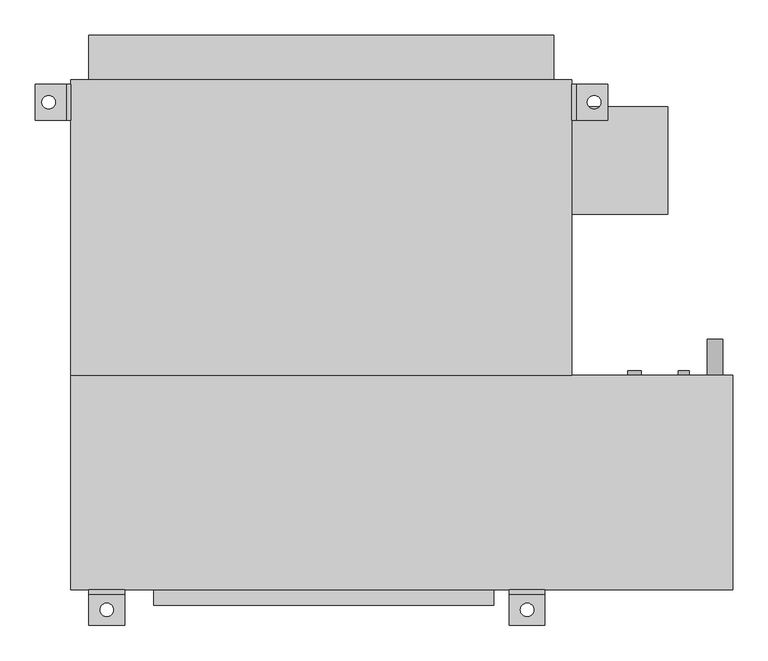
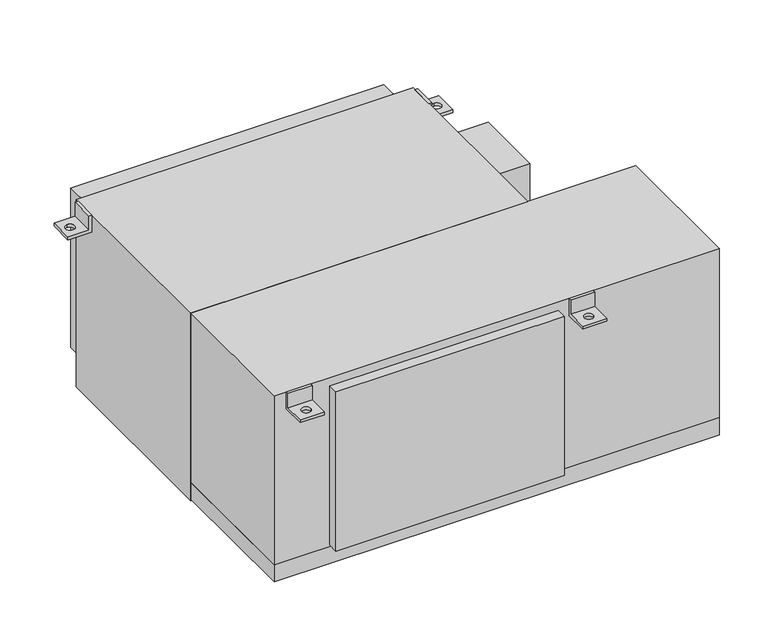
"""IFC4 building model written with IfcOpenShell, lengths in millimetres: proxy geometry, Concealed_High_Capacity_Horizontal_Fan_Coil_Unit_With_Plenum_-_42DCA_-_CARRIER_-_4-Pipe_ValveEnclosure_RH_2022 : Size 08 - 277v/60Hz/1Ph - 6/2 Coil."""

import ifcopenshell
import ifcopenshell.guid

model = None  # the IFC model being written
_history = None  # IfcOwnerHistory: only IFC2X3 demands one
_inside = {}  # id of a spatial element -> (the spatial element, [elements in it])
_under = {}  # id of a project, library or spatial element -> (it, [spatial elements below it])
_declared = {}  # id of a project -> (the project, [libraries it declares])
_typed = {}  # id of a type object -> (the type object, [elements of that type])
_made_of = {}  # id of a material, layer set ... -> (it, [elements and type objects made of it])


def new_model(schema):
    """Start an empty IFC model of exactly this schema.

    Asked for "IFC4X3", IfcOpenShell would pick the latest addendum, in which some entities
    have other attributes; the version numbers below select the first issue.
    IFC2X3 requires an IfcOwnerHistory on every rooted entity: one is made here for all.
    """
    global model, _history
    if schema == "IFC4X3":
        model = ifcopenshell.file(schema_version=(4, 3, 0, 0))
    else:
        model = ifcopenshell.file(schema=schema)
    _inside.clear()
    _under.clear()
    _declared.clear()
    _typed.clear()
    _made_of.clear()
    _history = None
    if model.schema == "IFC2X3":
        org = make("IfcOrganization", Name="unknown")
        user = make(
            "IfcPersonAndOrganization",
            ThePerson=make("IfcPerson", FamilyName="unknown"),
            TheOrganization=org,
        )
        app = make(
            "IfcApplication",
            ApplicationDeveloper=org,
            Version="unknown",
            ApplicationFullName="unknown",
            ApplicationIdentifier="unknown",
        )
        _history = make(
            "IfcOwnerHistory",
            OwningUser=user,
            OwningApplication=app,
            ChangeAction="ADDED",
            CreationDate=0,
        )
    return model


def make(cls, **values):
    """One entity of the class cls with the attributes given. An attribute that is None is left unset."""
    return model.create_entity(
        cls, **{name: value for name, value in values.items() if value is not None}
    )


def rooted(cls, **values):
    """An entity with a GlobalId (a new one), such as an element, a storey or a relation."""
    return make(cls, GlobalId=ifcopenshell.guid.new(), OwnerHistory=_history, **values)


def si_unit(unit_type, name, prefix=None):
    """IfcSIUnit, for example si_unit("LENGTHUNIT", "METRE", prefix="MILLI")."""
    return make("IfcSIUnit", UnitType=unit_type, Prefix=prefix, Name=name)


def assignment(units):
    """IfcUnitAssignment: the units of a project."""
    return None if units is None else make("IfcUnitAssignment", Units=units)


def point(xyz):
    """IfcCartesianPoint."""
    return None if xyz is None else make("IfcCartesianPoint", Coordinates=xyz)


def direction(xyz):
    """IfcDirection."""
    return None if xyz is None else make("IfcDirection", DirectionRatios=xyz)


def frame(location, z_axis=None, x_axis=None):
    """IfcAxis2Placement3D, a coordinate frame: its origin and axes. An axis left out is left unset."""
    return make(
        "IfcAxis2Placement3D",
        Location=point(location),
        Axis=direction(z_axis),
        RefDirection=direction(x_axis),
    )


def frame_2d(location, x_axis=None):
    """IfcAxis2Placement2D, a coordinate frame in the plane: its origin and x axis."""
    return make(
        "IfcAxis2Placement2D", Location=point(location), RefDirection=direction(x_axis)
    )


def origin():
    """The frame at (0, 0, 0) with its axes left unset."""
    return frame((0.0, 0.0, 0.0))


def place(relative_to, where):
    """IfcLocalPlacement: puts the frame where relative to a parent placement (None: the world)."""
    return make(
        "IfcLocalPlacement", PlacementRelTo=relative_to, RelativePlacement=where
    )


def context(
    kind, dimensions, precision=None, world=None, true_north=None, identifier=None
):
    """IfcGeometricRepresentationContext, for example the 3D "Model" context."""
    return make(
        "IfcGeometricRepresentationContext",
        ContextIdentifier=identifier,
        ContextType=kind,
        CoordinateSpaceDimension=dimensions,
        Precision=precision,
        WorldCoordinateSystem=world,
        TrueNorth=true_north,
    )


def project(units=None, contexts=None):
    """IfcProject with its units and contexts."""
    return rooted(
        "IfcProject",
        Name="project",
        RepresentationContexts=contexts,
        UnitsInContext=assignment(units),
    )


def spatial(cls, under=None, at=None, **own):
    """A site, building, storey or space (cls), placed at a placement, below another one or the project."""
    s = rooted(cls, ObjectPlacement=at, **own)
    if under is not None:
        _under.setdefault(under.id(), (under, []))[1].append(s)
    return s


def polyline(points):
    """IfcPolyline through the points."""
    return make("IfcPolyline", Points=[point(p) for p in points])


def circle_curve(where, radius):
    """IfcCircle in the frame where."""
    return make("IfcCircle", Position=where, Radius=radius)


def trimmed(basis, trim1, trim2, sense, master):
    """IfcTrimmedCurve: the piece of a basis curve between two trims."""
    return make(
        "IfcTrimmedCurve",
        BasisCurve=basis,
        Trim1=trim1,
        Trim2=trim2,
        SenseAgreement=sense,
        MasterRepresentation=master,
    )


def segment(curve, same_sense, transition):
    """IfcCompositeCurveSegment."""
    return make(
        "IfcCompositeCurveSegment",
        Transition=transition,
        SameSense=same_sense,
        ParentCurve=curve,
    )


def composite_curve(segments, self_intersect=None):
    """IfcCompositeCurve: segments joined end to end."""
    return make("IfcCompositeCurve", Segments=segments, SelfIntersect=self_intersect)


def outline(outer, holes=None, kind="AREA"):
    """IfcArbitraryClosedProfileDef: a profile drawn as a closed curve; with holes, ...WithVoids."""
    if holes is None:
        return make("IfcArbitraryClosedProfileDef", ProfileType=kind, OuterCurve=outer)
    return make(
        "IfcArbitraryProfileDefWithVoids",
        ProfileType=kind,
        OuterCurve=outer,
        InnerCurves=holes,
    )


def extrude(swept, where, along, depth):
    """IfcExtrudedAreaSolid: the profile swept, set in the frame where, extruded along a direction by depth."""
    return make(
        "IfcExtrudedAreaSolid",
        SweptArea=swept,
        Position=where,
        ExtrudedDirection=direction(along),
        Depth=depth,
    )


def shape(context_of_items, identifier, shape_type, items):
    """IfcShapeRepresentation: the items that make up one representation, for example the "Body"."""
    return make(
        "IfcShapeRepresentation",
        ContextOfItems=context_of_items,
        RepresentationIdentifier=identifier,
        RepresentationType=shape_type,
        Items=items,
    )


def source(mapping_origin, context_of_items, identifier, shape_type, items):
    """IfcRepresentationMap: a shape defined once, which mapped items show again and again."""
    return make(
        "IfcRepresentationMap",
        MappingOrigin=mapping_origin,
        MappedRepresentation=shape(context_of_items, identifier, shape_type, items),
    )


def transform(
    local_origin,
    x_axis=None,
    y_axis=None,
    z_axis=None,
    scale=None,
    scale2=None,
    scale3=None,
    uniform=True,
):
    """IfcCartesianTransformationOperator3D, or its non-uniform kind. x_axis, y_axis, z_axis: its Axis1, 2, 3."""
    if uniform:
        return make(
            "IfcCartesianTransformationOperator3D",
            Axis1=direction(x_axis),
            Axis2=direction(y_axis),
            LocalOrigin=point(local_origin),
            Scale=scale,
            Axis3=direction(z_axis),
        )
    return make(
        "IfcCartesianTransformationOperator3DnonUniform",
        Axis1=direction(x_axis),
        Axis2=direction(y_axis),
        LocalOrigin=point(local_origin),
        Scale=scale,
        Axis3=direction(z_axis),
        Scale2=scale2,
        Scale3=scale3,
    )


def mapped(mapping_source, mapping_target):
    """IfcMappedItem: shows the shape of a source again, moved by a transform."""
    return make(
        "IfcMappedItem", MappingSource=mapping_source, MappingTarget=mapping_target
    )


def made_of(thing, what):
    """Note that an element or type object is made of a material, layer set ...; save() writes the relation."""
    if what is not None:
        _made_of.setdefault(what.id(), (what, []))[1].append(thing)
    return thing


def element(
    cls,
    number,
    at=None,
    inside=None,
    cuts=None,
    type_object=None,
    material=None,
    context=None,
    identifier="Body",
    shape_type=None,
    held_by="IfcProductDefinitionShape",
    body=None,
    shapes=None,
    **own,
):
    """One element of the class cls, such as IfcWall. Its Tag is "e" and its number.

    at: its placement. inside: the storey or other place that contains it. cuts: it is an
    opening in that element (IfcRelVoidsElement). A single representation is given by context,
    identifier, shape_type and body (its items); several are given by shapes. held_by: the class
    of the entity that holds the representations. save() writes the other relations.
    """
    e = rooted(cls, Tag="e%d" % number, ObjectPlacement=at, **own)
    if body is not None:
        shapes = [shape(context, identifier, shape_type, body)]
    if shapes is not None:
        e.Representation = make(held_by, Representations=shapes)
    if inside is not None:
        _inside.setdefault(inside.id(), (inside, []))[1].append(e)
    if cuts is not None:
        rooted(
            "IfcRelVoidsElement", RelatingBuildingElement=cuts, RelatedOpeningElement=e
        )
    if type_object is not None:
        _typed.setdefault(type_object.id(), (type_object, []))[1].append(e)
    return made_of(e, material)


def aggregate(whole, parts):
    """IfcRelAggregates: a whole, such as a stair, and the parts it consists of."""
    return rooted("IfcRelAggregates", RelatingObject=whole, RelatedObjects=parts)


def save(model, path):
    """Write the relations noted so far, then the file.

    IfcRelAggregates (storeys below a building ...), IfcRelContainedInSpatialStructure (elements
    in a storey), IfcRelDefinesByType, IfcRelAssociatesMaterial and IfcRelDeclares: one each for
    every whole, place, type object, material and project.
    """
    for whole, parts in _under.values():
        aggregate(whole, parts)
    for where, things in _inside.values():
        rooted(
            "IfcRelContainedInSpatialStructure",
            RelatedElements=things,
            RelatingStructure=where,
        )
    for kind, things in _typed.values():
        rooted("IfcRelDefinesByType", RelatedObjects=things, RelatingType=kind)
    for what, things in _made_of.values():
        rooted("IfcRelAssociatesMaterial", RelatedObjects=things, RelatingMaterial=what)
    for by, libraries in _declared.values():
        rooted("IfcRelDeclares", RelatingContext=by, RelatedDefinitions=libraries)
    model.write(path)


def plane_surface(at):
    """IfcPlane: the flat surface through the origin of the frame at, square to its z axis."""
    return make("IfcPlane", Position=at)


def revolved_surface(curve, axis_point, axis_direction):
    """IfcSurfaceOfRevolution: the curve turned about the line through axis_point along axis_direction."""
    return make(
        "IfcSurfaceOfRevolution",
        SweptCurve=make("IfcArbitraryOpenProfileDef", ProfileType="CURVE", Curve=curve),
        AxisPosition=make("IfcAxis1Placement", Location=point(axis_point), Axis=direction(axis_direction)),
    )


def advanced_brep(points, edges, surfaces, faces):
    """IfcAdvancedBrep: a solid bounded by faces that lie on surfaces and meet in shared edges.

    An edge is (start, end): straight between two places in points (the first is 0);
    or (start, end, curve); or (start, end, curve, False) where it runs against its curve.
    A face is (place in surfaces, loops), or (place, loops, False) where it looks against
    its surface's normal. A loop lists edges by number (the first is 1), with a minus sign
    where the edge is run from its end to its start. The first loop is the outer one.
    """
    corners = [point(p) for p in points]
    vertices = [make("IfcVertexPoint", VertexGeometry=c) for c in corners]
    made = []
    for start, end, *more in edges:
        made.append(
            make(
                "IfcEdgeCurve",
                EdgeStart=vertices[start],
                EdgeEnd=vertices[end],
                EdgeGeometry=more[0] if more else make("IfcPolyline", Points=[corners[start], corners[end]]),
                SameSense=more[1] if len(more) > 1 else True,
            )
        )
    hull = []
    for where, loops, *sense in faces:
        bounds = []
        for j, loop in enumerate(loops):
            ring = [make("IfcOrientedEdge", EdgeElement=made[abs(k) - 1], Orientation=k > 0) for k in loop]
            bounds.append(
                make(
                    "IfcFaceOuterBound" if j == 0 else "IfcFaceBound",
                    Bound=make("IfcEdgeLoop", EdgeList=ring),
                    Orientation=True,
                )
            )
        hull.append(make("IfcAdvancedFace", Bounds=bounds, FaceSurface=surfaces[where], SameSense=sense[0] if sense else True))
    return make("IfcAdvancedBrep", Outer=make("IfcClosedShell", CfsFaces=hull))


def mechanical_equipment_1ba72c7d(model_context):
    return source(origin(), model_context, "Body", "SolidModel", [
        advanced_brep(
        [(469.9, -390.525, 0.0), (469.9, -396.875, 0.0), (469.9, -396.875, -31.75), (469.9, -441.325, -31.75), (469.9, -441.325, -38.1), (469.9, -390.525, -38.1), (419.1, -390.525, 0.0), (419.1, -390.525, -38.1), (419.1, -441.325, -38.1), (419.1, -441.325, -31.75), (419.1, -396.875, -31.75), (419.1, -396.875, 0.0), (434.975, -419.1, -31.75), (454.025, -419.1, -31.75), (454.025, -419.1, -38.1), (434.975, -419.1, -38.1)],
        [
            (0, 1),
            (1, 2),
            (2, 3),
            (3, 4),
            (4, 5),
            (5, 0),
            (6, 7),
            (7, 8),
            (8, 9),
            (9, 10),
            (10, 11),
            (11, 6),
            (0, 6),
            (11, 1),
            (10, 2),
            (9, 3),
            (12, 13, circle_curve(frame((444.5, -419.1, -31.75), z_axis=(0.0, 0.0, -1.0), x_axis=(1.0, 0.0, 0.0)), 9.525)),
            (13, 12, circle_curve(frame((444.5, -419.1, -31.75), z_axis=(0.0, 0.0, -1.0), x_axis=(1.0, 0.0, 0.0)), 9.525)),
            (8, 4),
            (7, 5),
            (14, 15, circle_curve(frame((444.5, -419.1, -38.1), z_axis=(0.0, 0.0, 1.0), x_axis=(1.0, 0.0, 0.0)), 9.525)),
            (15, 14, circle_curve(frame((444.5, -419.1, -38.1), z_axis=(0.0, 0.0, 1.0), x_axis=(1.0, 0.0, 0.0)), 9.525)),
            (12, 15),
            (14, 13),
        ],
        [
            plane_surface(frame((469.9, -396.875, 0.0), z_axis=(1.0, 0.0, 0.0), x_axis=(0.0, -1.0, 0.0))),
            plane_surface(frame((419.1, -396.875, 0.0), z_axis=(-1.0, 0.0, 0.0), x_axis=(0.0, 1.0, 0.0))),
            plane_surface(frame((469.9, -390.525, 0.0), z_axis=(0.0, 0.0, 1.0), x_axis=(-1.0, 0.0, 0.0))),
            plane_surface(frame((469.9, -396.875, 0.0), z_axis=(0.0, -1.0, 0.0), x_axis=(-1.0, 0.0, 0.0))),
            plane_surface(frame((469.9, -396.875, -31.75), z_axis=(0.0, 0.0, 1.0), x_axis=(-1.0, 0.0, 0.0))),
            plane_surface(frame((469.9, -441.325, -31.75), z_axis=(0.0, -1.0, 0.0), x_axis=(-1.0, 0.0, 0.0))),
            plane_surface(frame((469.9, -441.325, -38.1), z_axis=(0.0, 0.0, -1.0), x_axis=(-1.0, 0.0, 0.0))),
            plane_surface(frame((469.9, -390.525, -38.1), z_axis=(0.0, 1.0, 0.0), x_axis=(-1.0, 0.0, 0.0))),
            revolved_surface(polyline([(454.025, -419.1, -38.1), (454.025, -419.1, -31.75)]), (444.5, -419.1, -31.75), (0.0, 0.0, -1.0)),
        ],
        [
            (0, [[1, 2, 3, 4, 5, 6]]),
            (1, [[7, 8, 9, 10, 11, 12]]),
            (2, [[-1, 13, -12, 14]]),
            (3, [[-2, -14, -11, 15]]),
            (4, [[-3, -15, -10, 16], [17, 18]]),
            (5, [[-4, -16, -9, 19]]),
            (6, [[-5, -19, -8, 20], [21, 22]]),
            (7, [[-6, -20, -7, -13]]),
            (8, [[23, -21, 24, -17]]),
            (8, [[-23, -18, -24, -22]]),
        ],
    ),
        advanced_brep(
        [(-127.0, -390.525, -38.1), (-127.0, -390.525, 0.0), (-127.0, -396.875, 0.0), (-127.0, -396.875, -31.75), (-127.0, -441.325, -31.75), (-127.0, -441.325, -38.1), (-177.8, -390.525, -38.1), (-177.8, -441.325, -38.1), (-177.8, -441.325, -31.75), (-177.8, -396.875, -31.75), (-177.8, -396.875, 0.0), (-177.8, -390.525, 0.0), (-161.925, -419.1, -31.75), (-142.875, -419.1, -31.75), (-142.875, -419.1, -38.1), (-161.925, -419.1, -38.1)],
        [
            (0, 1),
            (1, 2),
            (2, 3),
            (3, 4),
            (4, 5),
            (5, 0),
            (6, 7),
            (7, 8),
            (8, 9),
            (9, 10),
            (10, 11),
            (11, 6),
            (0, 6),
            (11, 1),
            (10, 2),
            (9, 3),
            (8, 4),
            (12, 13, circle_curve(frame((-152.4, -419.1, -31.75), z_axis=(0.0, 0.0, -1.0), x_axis=(1.0, 0.0, 0.0)), 9.525)),
            (13, 12, circle_curve(frame((-152.4, -419.1, -31.75), z_axis=(0.0, 0.0, -1.0), x_axis=(1.0, 0.0, 0.0)), 9.525)),
            (7, 5),
            (14, 15, circle_curve(frame((-152.4, -419.1, -38.1), z_axis=(0.0, 0.0, 1.0), x_axis=(1.0, 0.0, 0.0)), 9.525)),
            (15, 14, circle_curve(frame((-152.4, -419.1, -38.1), z_axis=(0.0, 0.0, 1.0), x_axis=(1.0, 0.0, 0.0)), 9.525)),
            (12, 15),
            (14, 13),
        ],
        [
            plane_surface(frame((-127.0, -390.525, -38.1), z_axis=(1.0, 0.0, 0.0), x_axis=(0.0, 0.0, 1.0))),
            plane_surface(frame((-177.8, -390.525, -38.1), z_axis=(-1.0, 0.0, 0.0), x_axis=(0.0, 0.0, -1.0))),
            plane_surface(frame((-127.0, -390.525, -38.1), z_axis=(0.0, 1.0, 0.0), x_axis=(-1.0, 0.0, 0.0))),
            plane_surface(frame((-127.0, -390.525, 0.0), z_axis=(0.0, 0.0, 1.0), x_axis=(-1.0, 0.0, 0.0))),
            plane_surface(frame((-127.0, -396.875, 0.0), z_axis=(0.0, -1.0, 0.0), x_axis=(-1.0, 0.0, 0.0))),
            plane_surface(frame((-127.0, -396.875, -31.75), z_axis=(0.0, 0.0, 1.0), x_axis=(-1.0, 0.0, 0.0))),
            plane_surface(frame((-127.0, -441.325, -31.75), z_axis=(0.0, -1.0, 0.0), x_axis=(-1.0, 0.0, 0.0))),
            plane_surface(frame((-127.0, -441.325, -38.1), z_axis=(0.0, 0.0, -1.0), x_axis=(-1.0, 0.0, 0.0))),
            revolved_surface(polyline([(-142.875, -419.1, -38.1), (-142.875, -419.1, -31.75)]), (-152.4, -419.1, -31.75), (0.0, 0.0, -1.0)),
        ],
        [
            (0, [[1, 2, 3, 4, 5, 6]]),
            (1, [[7, 8, 9, 10, 11, 12]]),
            (2, [[-1, 13, -12, 14]]),
            (3, [[-2, -14, -11, 15]]),
            (4, [[-3, -15, -10, 16]]),
            (5, [[-4, -16, -9, 17], [18, 19]]),
            (6, [[-5, -17, -8, 20]]),
            (7, [[-6, -20, -7, -13], [21, 22]]),
            (8, [[23, -21, 24, -18]]),
            (8, [[-23, -19, -24, -22]]),
        ],
    ),
        extrude(outline(composite_curve([segment(trimmed(circle_curve(frame_2d((-400.05, 711.2)), 11.1125), [point((-400.05, 700.0875))], [point((-400.05, 722.3125))], False, "CARTESIAN"), True, "CONTINUOUS"), segment(trimmed(circle_curve(frame_2d((-400.05, 711.2)), 11.1125), [point((-400.05, 722.3125))], [point((-400.05, 700.0875))], False, "CARTESIAN"), True, "CONTINUOUS")], self_intersect=False)), frame((0.0, -85.725, 0.0), z_axis=(0.0, 1.0, 0.0), x_axis=(0.0, 0.0, 1.0)), (0.0, 0.0, 1.0), 50.8),
        extrude(outline(composite_curve([segment(trimmed(circle_curve(frame_2d((-44.45, 596.9)), 9.525), [point((-44.45, 587.375))], [point((-44.45, 606.425))], False, "CARTESIAN"), True, "CONTINUOUS"), segment(trimmed(circle_curve(frame_2d((-44.45, 596.9)), 9.525), [point((-44.45, 606.425))], [point((-44.45, 587.375))], False, "CARTESIAN"), True, "CONTINUOUS")], self_intersect=False)), frame((0.0, -85.725, 0.0), z_axis=(0.0, 1.0, 0.0), x_axis=(0.0, 0.0, 1.0)), (0.0, 0.0, 1.0), 6.35),
        extrude(outline(composite_curve([segment(trimmed(circle_curve(frame_2d((-276.225, 596.9)), 9.525), [point((-276.225, 587.375))], [point((-276.225, 606.425))], False, "CARTESIAN"), True, "CONTINUOUS"), segment(trimmed(circle_curve(frame_2d((-276.225, 596.9)), 9.525), [point((-276.225, 606.425))], [point((-276.225, 587.375))], False, "CARTESIAN"), True, "CONTINUOUS")], self_intersect=False)), frame((0.0, -85.725, 0.0), z_axis=(0.0, 1.0, 0.0), x_axis=(0.0, 0.0, 1.0)), (0.0, 0.0, 1.0), 6.35),
        extrude(outline(composite_curve([segment(trimmed(circle_curve(frame_2d((-69.85, 666.75)), 7.9375), [point((-69.85, 658.8125))], [point((-69.85, 674.6875))], False, "CARTESIAN"), True, "CONTINUOUS"), segment(trimmed(circle_curve(frame_2d((-69.85, 666.75)), 7.9375), [point((-69.85, 674.6875))], [point((-69.85, 658.8125))], False, "CARTESIAN"), True, "CONTINUOUS")], self_intersect=False)), frame((0.0, -85.725, 0.0), z_axis=(0.0, 1.0, 0.0), x_axis=(0.0, 0.0, 1.0)), (0.0, 0.0, 1.0), 6.35),
        extrude(outline(composite_curve([segment(trimmed(circle_curve(frame_2d((-285.75, 666.75)), 7.9375), [point((-285.75, 658.8125))], [point((-285.75, 674.6875))], False, "CARTESIAN"), True, "CONTINUOUS"), segment(trimmed(circle_curve(frame_2d((-285.75, 666.75)), 7.9375), [point((-285.75, 674.6875))], [point((-285.75, 658.8125))], False, "CARTESIAN"), True, "CONTINUOUS")], self_intersect=False)), frame((0.0, -85.725, 0.0), z_axis=(0.0, 1.0, 0.0), x_axis=(0.0, 0.0, 1.0)), (0.0, 0.0, 1.0), 6.35),
        advanced_brep(
        [(-203.2, 327.025, -38.1), (-254.0, 327.025, -38.1), (-254.0, 327.025, -31.75), (-209.55, 327.025, -31.75), (-209.55, 327.025, 0.0), (-203.2, 327.025, 0.0), (-203.2, 276.225, -38.1), (-203.2, 276.225, 0.0), (-209.55, 276.225, 0.0), (-209.55, 276.225, -31.75), (-254.0, 276.225, -31.75), (-254.0, 276.225, -38.1), (-234.95, 292.1, -38.1), (-234.95, 311.15, -38.1), (-234.95, 311.15, -31.75), (-234.95, 292.1, -31.75)],
        [
            (0, 1),
            (1, 2),
            (2, 3),
            (3, 4),
            (4, 5),
            (5, 0),
            (6, 7),
            (7, 8),
            (8, 9),
            (9, 10),
            (10, 11),
            (11, 6),
            (0, 6),
            (11, 1),
            (12, 13, circle_curve(frame((-234.95, 301.625, -38.1), z_axis=(0.0, 0.0, 1.0), x_axis=(0.0, -1.0, 0.0)), 9.525)),
            (13, 12, circle_curve(frame((-234.95, 301.625, -38.1), z_axis=(0.0, 0.0, 1.0), x_axis=(0.0, -1.0, 0.0)), 9.525)),
            (10, 2),
            (9, 3),
            (14, 15, circle_curve(frame((-234.95, 301.625, -31.75), z_axis=(0.0, 0.0, -1.0), x_axis=(0.0, -1.0, 0.0)), 9.525)),
            (15, 14, circle_curve(frame((-234.95, 301.625, -31.75), z_axis=(0.0, 0.0, -1.0), x_axis=(0.0, -1.0, 0.0)), 9.525)),
            (8, 4),
            (7, 5),
            (14, 13),
            (12, 15),
        ],
        [
            plane_surface(frame((-203.2, 327.025, -38.1), z_axis=(0.0, 1.0, 0.0), x_axis=(-1.0, 0.0, 0.0))),
            plane_surface(frame((-203.2, 276.225, -38.1), z_axis=(0.0, -1.0, 0.0), x_axis=(1.0, 0.0, 0.0))),
            plane_surface(frame((-203.2, 327.025, -38.1), z_axis=(0.0, 0.0, -1.0), x_axis=(0.0, -1.0, 0.0))),
            plane_surface(frame((-254.0, 327.025, -38.1), z_axis=(-1.0, 0.0, 0.0), x_axis=(0.0, -1.0, 0.0))),
            plane_surface(frame((-254.0, 327.025, -31.75), z_axis=(0.0, 0.0, 1.0), x_axis=(0.0, -1.0, 0.0))),
            plane_surface(frame((-209.55, 327.025, -31.75), z_axis=(-1.0, 0.0, 0.0), x_axis=(0.0, -1.0, 0.0))),
            plane_surface(frame((-209.55, 327.025, 0.0), z_axis=(0.0, 0.0, 1.0), x_axis=(0.0, -1.0, 0.0))),
            plane_surface(frame((-203.2, 327.025, 0.0), z_axis=(1.0, 0.0, 0.0), x_axis=(0.0, -1.0, 0.0))),
            revolved_surface(polyline([(-234.95, 292.1, -38.1), (-234.95, 292.1, -31.75)]), (-234.95, 301.625, -31.75), (0.0, 0.0, -1.0)),
        ],
        [
            (0, [[1, 2, 3, 4, 5, 6]]),
            (1, [[7, 8, 9, 10, 11, 12]]),
            (2, [[-1, 13, -12, 14], [15, 16]]),
            (3, [[-2, -14, -11, 17]]),
            (4, [[-3, -17, -10, 18], [19, 20]]),
            (5, [[-4, -18, -9, 21]]),
            (6, [[-5, -21, -8, 22]]),
            (7, [[-6, -22, -7, -13]]),
            (8, [[23, -15, 24, -19]]),
            (8, [[-23, -20, -24, -16]]),
        ],
    ),
        advanced_brep(
        [(508.0, 327.025, -38.1), (508.0, 327.025, 0.0), (514.35, 327.025, 0.0), (514.35, 327.025, -31.75), (558.8, 327.025, -31.75), (558.8, 327.025, -38.1), (508.0, 276.225, -38.1), (558.8, 276.225, -38.1), (558.8, 276.225, -31.75), (514.35, 276.225, -31.75), (514.35, 276.225, 0.0), (508.0, 276.225, 0.0), (539.75, 311.15, -31.75), (539.75, 292.1, -31.75), (539.75, 292.1, -38.1), (539.75, 311.15, -38.1)],
        [
            (0, 1),
            (1, 2),
            (2, 3),
            (3, 4),
            (4, 5),
            (5, 0),
            (6, 7),
            (7, 8),
            (8, 9),
            (9, 10),
            (10, 11),
            (11, 6),
            (0, 6),
            (11, 1),
            (10, 2),
            (9, 3),
            (8, 4),
            (12, 13, circle_curve(frame((539.75, 301.625, -31.75), z_axis=(0.0, 0.0, -1.0), x_axis=(0.0, -1.0, 0.0)), 9.525)),
            (13, 12, circle_curve(frame((539.75, 301.625, -31.75), z_axis=(0.0, 0.0, -1.0), x_axis=(0.0, -1.0, 0.0)), 9.525)),
            (7, 5),
            (14, 15, circle_curve(frame((539.75, 301.625, -38.1), z_axis=(0.0, 0.0, 1.0), x_axis=(0.0, -1.0, 0.0)), 9.525)),
            (15, 14, circle_curve(frame((539.75, 301.625, -38.1), z_axis=(0.0, 0.0, 1.0), x_axis=(0.0, -1.0, 0.0)), 9.525)),
            (12, 15),
            (14, 13),
        ],
        [
            plane_surface(frame((-203.2, 327.025, -38.1), z_axis=(0.0, 1.0, 0.0), x_axis=(-1.0, 0.0, 0.0))),
            plane_surface(frame((-203.2, 276.225, -38.1), z_axis=(0.0, -1.0, 0.0), x_axis=(1.0, 0.0, 0.0))),
            plane_surface(frame((508.0, 327.025, -38.1), z_axis=(-1.0, 0.0, 0.0), x_axis=(0.0, -1.0, 0.0))),
            plane_surface(frame((508.0, 327.025, 0.0), z_axis=(0.0, 0.0, 1.0), x_axis=(0.0, -1.0, 0.0))),
            plane_surface(frame((514.35, 327.025, 0.0), z_axis=(1.0, 0.0, 0.0), x_axis=(0.0, -1.0, 0.0))),
            plane_surface(frame((514.35, 327.025, -31.75), z_axis=(0.0, 0.0, 1.0), x_axis=(0.0, -1.0, 0.0))),
            plane_surface(frame((558.8, 327.025, -31.75), z_axis=(1.0, 0.0, 0.0), x_axis=(0.0, -1.0, 0.0))),
            plane_surface(frame((558.8, 327.025, -38.1), z_axis=(0.0, 0.0, -1.0), x_axis=(0.0, -1.0, 0.0))),
            revolved_surface(polyline([(539.75, 292.1, -38.1), (539.75, 292.1, -31.75)]), (539.75, 301.625, -31.75), (0.0, 0.0, -1.0)),
        ],
        [
            (0, [[1, 2, 3, 4, 5, 6]]),
            (1, [[7, 8, 9, 10, 11, 12]]),
            (2, [[-1, 13, -12, 14]]),
            (3, [[-2, -14, -11, 15]]),
            (4, [[-3, -15, -10, 16]]),
            (5, [[-4, -16, -9, 17], [18, 19]]),
            (6, [[-5, -17, -8, 20]]),
            (7, [[-6, -20, -7, -13], [21, 22]]),
            (8, [[23, -21, 24, -18]]),
            (8, [[-23, -19, -24, -22]]),
        ],
    ),
        extrude(outline(polyline([(-177.8, 396.875), (482.6, 396.875), (482.6, 333.375), (-177.8, 333.375), (-177.8, 396.875)])), frame((0.0, 0.0, -377.825), z_axis=(0.0, 0.0, 1.0), x_axis=(1.0, 0.0, 0.0)), (0.0, 0.0, 1.0), 355.6),
        extrude(outline(polyline([(644.525, 295.275), (644.525, 142.875), (508.0, 142.875), (508.0, 295.275), (644.525, 295.275)])), frame((0.0, 0.0, -254.0), z_axis=(0.0, 0.0, 1.0), x_axis=(1.0, 0.0, 0.0)), (0.0, 0.0, 1.0), 152.4),
        extrude(outline(polyline([(396.875, -412.75), (-85.725, -412.75), (-85.725, -390.525), (396.875, -390.525), (396.875, -412.75)])), frame((0.0, 0.0, -374.65), z_axis=(0.0, 0.0, 1.0), x_axis=(1.0, 0.0, 0.0)), (0.0, 0.0, 1.0), 355.6),
        extrude(outline(polyline([(508.0, -85.725), (-203.2, -85.725), (-203.2, 333.375), (508.0, 333.375), (508.0, -85.725)])), frame((0.0, 0.0, -419.1), z_axis=(0.0, 0.0, 1.0), x_axis=(1.0, 0.0, 0.0)), (0.0, 0.0, 1.0), 419.1),
        extrude(outline(polyline([(736.6, -85.725), (736.6, -390.525), (-203.2, -390.525), (-203.2, -85.725), (736.6, -85.725)])), frame((0.0, 0.0, -377.825), z_axis=(0.0, 0.0, 1.0), x_axis=(1.0, 0.0, 0.0)), (0.0, 0.0, 1.0), 377.825),
        extrude(outline(polyline([(736.6, -85.725), (736.6, -390.525), (-203.2, -390.525), (-203.2, -85.725), (736.6, -85.725)])), frame((0.0, 0.0, -415.925), z_axis=(0.0, 0.0, 1.0), x_axis=(1.0, 0.0, 0.0)), (0.0, 0.0, 1.0), 38.1),
    ])


if __name__ == "__main__":
    model = new_model("IFC4")
    model_context = context("Model", 3, world=origin())
    ifc_project = project(units=[si_unit("LENGTHUNIT", "METRE", prefix="MILLI")], contexts=[model_context])
    site = spatial("IfcSite", under=ifc_project)
    building = spatial("IfcBuilding", under=site)
    placement = place(None, origin())
    mechanical_equipment_shape = mechanical_equipment_1ba72c7d(model_context)
    element("IfcBuildingElementProxy", 1, Name="Concealed_High_Capacity_Horizontal_Fan_Coil_Unit_With_Plenum_-_42DCA_-_CARRIER_-_4-Pipe_ValveEnclosure_RH_2022 : Size 08 - 277v/60Hz/1Ph - 6/2 Coil", ObjectType="Concealed_High_Capacity_Horizontal_Fan_Coil_Unit_With_Plenum_-_42DCA_-_CARRIER_-_4-Pipe_ValveEnclosure_RH_2022 : Size 08 - 277v/60Hz/1Ph - 6/2 Coil", at=placement, inside=building, context=model_context, shape_type="MappedRepresentation", body=[
        mapped(mechanical_equipment_shape, transform((0.0, 0.0, 0.0), x_axis=(1.0, 0.0, 0.0), y_axis=(0.0, 1.0, 0.0), z_axis=(0.0, 0.0, 1.0))),
    ])
    save(model, "model.ifc")
